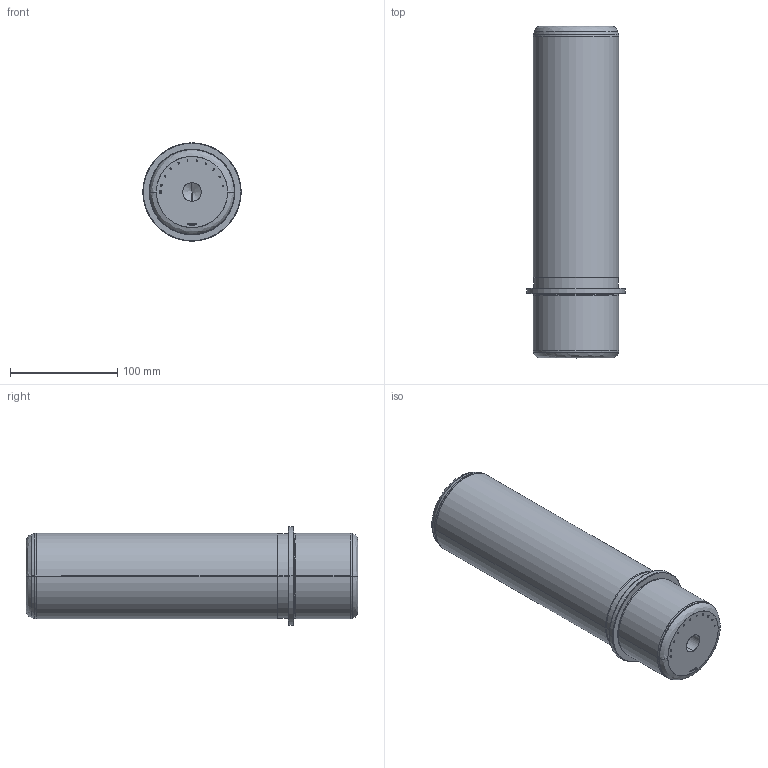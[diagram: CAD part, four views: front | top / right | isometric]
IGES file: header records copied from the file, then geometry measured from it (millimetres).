
Start section: SolidWorks IGES file using analytic representation for surfaces
Global section: file name: D:\Cleonir_arquivos\MT_15_07\Pinos Desmontáveis\PFG80250.igs; native system: SolidWorks 2013; preprocessor: SolidWorks 2013; author: Cleonir; date: 130730.162753; units: millimetre
Bounding box: 92 x 310 x 92 mm (x, y, z)
Surface area: 95724.7 mm2 (no closed solid volume)
Topology: 0 solids, 0 shells, 323 faces, 3931 edges, 3927 vertices
Faces by surface type: bspline 282, revolution 41
